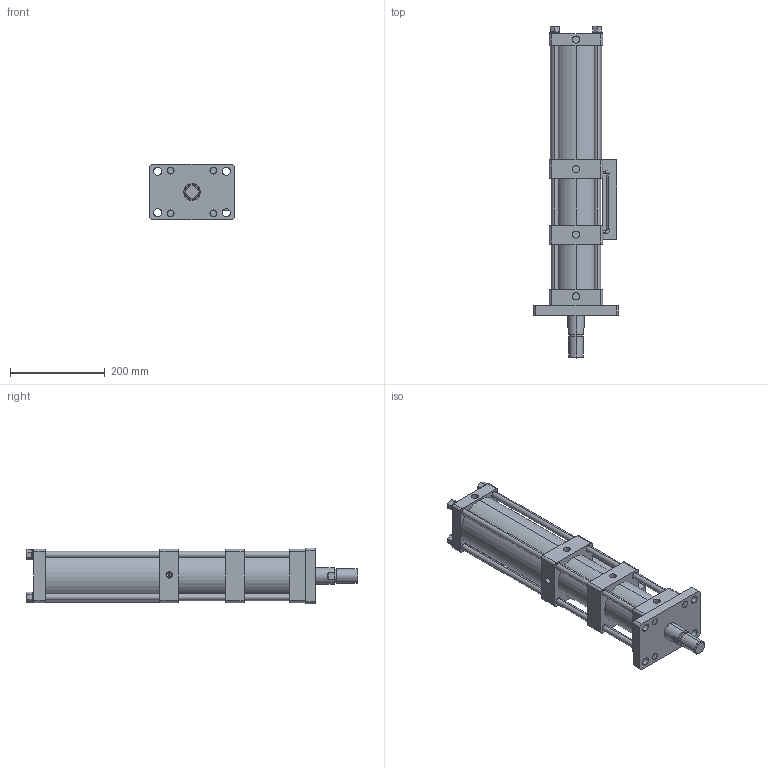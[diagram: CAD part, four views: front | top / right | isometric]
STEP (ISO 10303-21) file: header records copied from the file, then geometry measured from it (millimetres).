
FILE_DESCRIPTION (( 'STEP AP203' ), '1' );
FILE_NAME ('MPTF-80-50-15-5T.STEP', '2016-03-29T10:11:14', ( 'WIN' ), ( '' ), 'SwSTEP 2.0', 'SolidWorks 2014', '' );
FILE_SCHEMA (( 'CONFIG_CONTROL_DESIGN' ));
Length unit declared in the file: millimetre
Products named in the file (1): MPTF-80-50-15-5T
Bounding box: 180 x 700 x 118 mm (x, y, z)
Volume: 3217843.4 mm3; surface area: 609343.8 mm2
Topology: 5 solids, 5 shells, 266 faces, 632 edges, 413 vertices
Faces by surface type: cylinder 136, plane 120, cone 6, torus 4
Entity records: 7973 total; most frequent: DIRECTION 1448, CARTESIAN_POINT 1382, ORIENTED_EDGE 1260, EDGE_CURVE 630, AXIS2_PLACEMENT_3D 555, VERTEX_POINT 413, EDGE_LOOP 349, VECTOR 338
